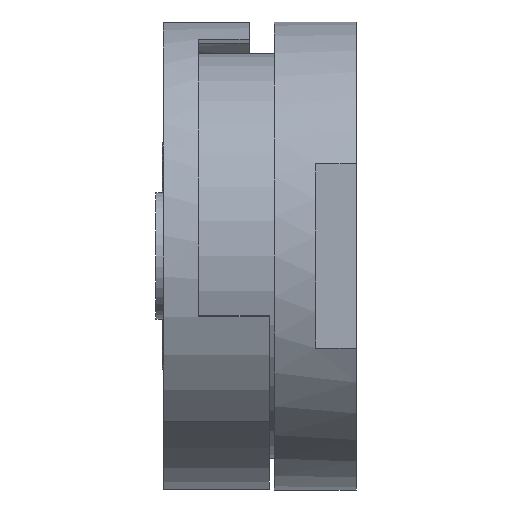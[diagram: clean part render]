
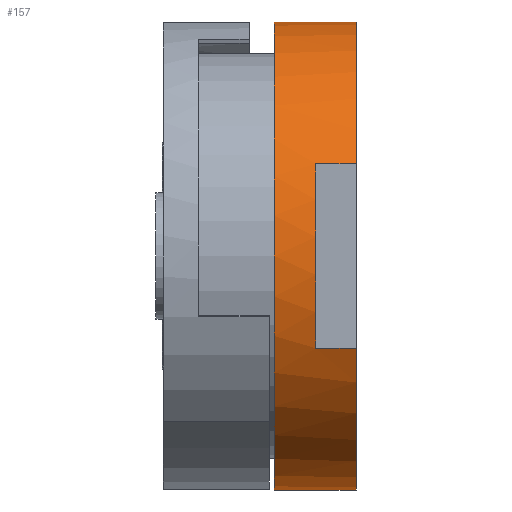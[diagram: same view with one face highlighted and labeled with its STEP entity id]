
A CAD part, left-side view. The second image highlights one B-rep face of the part: STEP entity #157.
In plain terms, the highlighted cylindrical face has radius 29.362 mm (diameter 58.725 mm), a partial arc.
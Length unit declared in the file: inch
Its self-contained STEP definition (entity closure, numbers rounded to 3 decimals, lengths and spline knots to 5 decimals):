
#157 = ADVANCED_FACE ( 'NONE', ( #2788 ), #4527, .T. ) ;
#214 = ORIENTED_EDGE ( 'NONE', *, *, #2109, .T. ) ;
#281 = CARTESIAN_POINT ( 'NONE',  ( -1.0625, 0.2, 0.45544 ) ) ;
#283 = VERTEX_POINT ( 'NONE', #1726 ) ;
#316 = CARTESIAN_POINT ( 'NONE',  ( -1.0625, 0., -0.45544 ) ) ;
#404 = DIRECTION ( 'NONE',  ( 0., 1., 0. ) ) ;
#433 = DIRECTION ( 'NONE',  ( 0., 0., 1. ) ) ;
#470 = CARTESIAN_POINT ( 'NONE',  ( 0., 0.405, 0. ) ) ;
#481 = CARTESIAN_POINT ( 'NONE',  ( 0., 0.405, -1.156 ) ) ;
#669 = EDGE_CURVE ( 'NONE', #4898, #1245, #3469, .T. ) ;
#721 = ORIENTED_EDGE ( 'NONE', *, *, #3715, .F. ) ;
#771 = DIRECTION ( 'NONE',  ( 0., 1., 0. ) ) ;
#799 = CIRCLE ( 'NONE', #1793, 1.156 ) ;
#838 = EDGE_CURVE ( 'NONE', #1245, #4329, #4763, .T. ) ;
#913 = VECTOR ( 'NONE', #1634, 39.37008 ) ;
#998 = CARTESIAN_POINT ( 'NONE',  ( 0., 0.405, 1.156 ) ) ;
#1079 = CARTESIAN_POINT ( 'NONE',  ( -1.0625, 0.2, -0.45544 ) ) ;
#1109 = AXIS2_PLACEMENT_3D ( 'NONE', #470, #3180, #1216 ) ;
#1114 = EDGE_CURVE ( 'NONE', #1217, #1297, #4753, .T. ) ;
#1216 = DIRECTION ( 'NONE',  ( 0., 0., -1. ) ) ;
#1217 = VERTEX_POINT ( 'NONE', #4448 ) ;
#1245 = VERTEX_POINT ( 'NONE', #1079 ) ;
#1269 = VECTOR ( 'NONE', #2199, 39.37008 ) ;
#1297 = VERTEX_POINT ( 'NONE', #4853 ) ;
#1360 = DIRECTION ( 'NONE',  ( 0., 0., 1. ) ) ;
#1526 = ORIENTED_EDGE ( 'NONE', *, *, #2177, .T. ) ;
#1634 = DIRECTION ( 'NONE',  ( 0., -1., 0. ) ) ;
#1684 = CARTESIAN_POINT ( 'NONE',  ( 0., 0., 0. ) ) ;
#1726 = CARTESIAN_POINT ( 'NONE',  ( -1.0625, 0., 0.45544 ) ) ;
#1793 = AXIS2_PLACEMENT_3D ( 'NONE', #1944, #771, #433 ) ;
#1824 = CARTESIAN_POINT ( 'NONE',  ( 0., 0.2, 0. ) ) ;
#1876 = LINE ( 'NONE', #998, #1269 ) ;
#1944 = CARTESIAN_POINT ( 'NONE',  ( 0., 0., 0. ) ) ;
#1975 = CARTESIAN_POINT ( 'NONE',  ( 0., 0., -1.156 ) ) ;
#2034 = ORIENTED_EDGE ( 'NONE', *, *, #3502, .T. ) ;
#2087 = AXIS2_PLACEMENT_3D ( 'NONE', #2900, #4046, #1360 ) ;
#2109 = EDGE_CURVE ( 'NONE', #283, #3087, #799, .T. ) ;
#2121 = LINE ( 'NONE', #281, #2179 ) ;
#2177 = EDGE_CURVE ( 'NONE', #1217, #2973, #3226, .T. ) ;
#2179 = VECTOR ( 'NONE', #4847, 39.37008 ) ;
#2199 = DIRECTION ( 'NONE',  ( 0., -1., 0. ) ) ;
#2788 = FACE_OUTER_BOUND ( 'NONE', #3951, .T. ) ;
#2900 = CARTESIAN_POINT ( 'NONE',  ( 0., 0.405, 0. ) ) ;
#2973 = VERTEX_POINT ( 'NONE', #1975 ) ;
#3087 = VERTEX_POINT ( 'NONE', #4687 ) ;
#3124 = DIRECTION ( 'NONE',  ( 0., 0., 1. ) ) ;
#3180 = DIRECTION ( 'NONE',  ( 0., -1., 0. ) ) ;
#3209 = AXIS2_PLACEMENT_3D ( 'NONE', #1684, #404, #3124 ) ;
#3226 = LINE ( 'NONE', #481, #913 ) ;
#3401 = CARTESIAN_POINT ( 'NONE',  ( -1.0625, 0.2, -0.45544 ) ) ;
#3446 = DIRECTION ( 'NONE',  ( 0., -1., 0. ) ) ;
#3469 = CIRCLE ( 'NONE', #3535, 1.156 ) ;
#3502 = EDGE_CURVE ( 'NONE', #2973, #4329, #4460, .T. ) ;
#3535 = AXIS2_PLACEMENT_3D ( 'NONE', #1824, #3720, #4752 ) ;
#3629 = CARTESIAN_POINT ( 'NONE',  ( -1.0625, 0.2, 0.45544 ) ) ;
#3715 = EDGE_CURVE ( 'NONE', #1297, #3087, #1876, .T. ) ;
#3720 = DIRECTION ( 'NONE',  ( 0., -1., 0. ) ) ;
#3743 = EDGE_CURVE ( 'NONE', #4898, #283, #2121, .T. ) ;
#3951 = EDGE_LOOP ( 'NONE', ( #721, #4475, #1526, #2034, #4647, #4462, #4775, #214 ) ) ;
#4046 = DIRECTION ( 'NONE',  ( 0., 1., 0. ) ) ;
#4106 = VECTOR ( 'NONE', #3446, 39.37008 ) ;
#4329 = VERTEX_POINT ( 'NONE', #316 ) ;
#4448 = CARTESIAN_POINT ( 'NONE',  ( 0., 0.405, -1.156 ) ) ;
#4460 = CIRCLE ( 'NONE', #3209, 1.156 ) ;
#4462 = ORIENTED_EDGE ( 'NONE', *, *, #669, .F. ) ;
#4475 = ORIENTED_EDGE ( 'NONE', *, *, #1114, .F. ) ;
#4527 = CYLINDRICAL_SURFACE ( 'NONE', #1109, 1.156 ) ;
#4647 = ORIENTED_EDGE ( 'NONE', *, *, #838, .F. ) ;
#4687 = CARTESIAN_POINT ( 'NONE',  ( 0., 0., 1.156 ) ) ;
#4752 = DIRECTION ( 'NONE',  ( 0., 0., -1. ) ) ;
#4753 = CIRCLE ( 'NONE', #2087, 1.156 ) ;
#4763 = LINE ( 'NONE', #3401, #4106 ) ;
#4775 = ORIENTED_EDGE ( 'NONE', *, *, #3743, .T. ) ;
#4847 = DIRECTION ( 'NONE',  ( 0., -1., 0. ) ) ;
#4853 = CARTESIAN_POINT ( 'NONE',  ( 0., 0.405, 1.156 ) ) ;
#4898 = VERTEX_POINT ( 'NONE', #3629 ) ;
